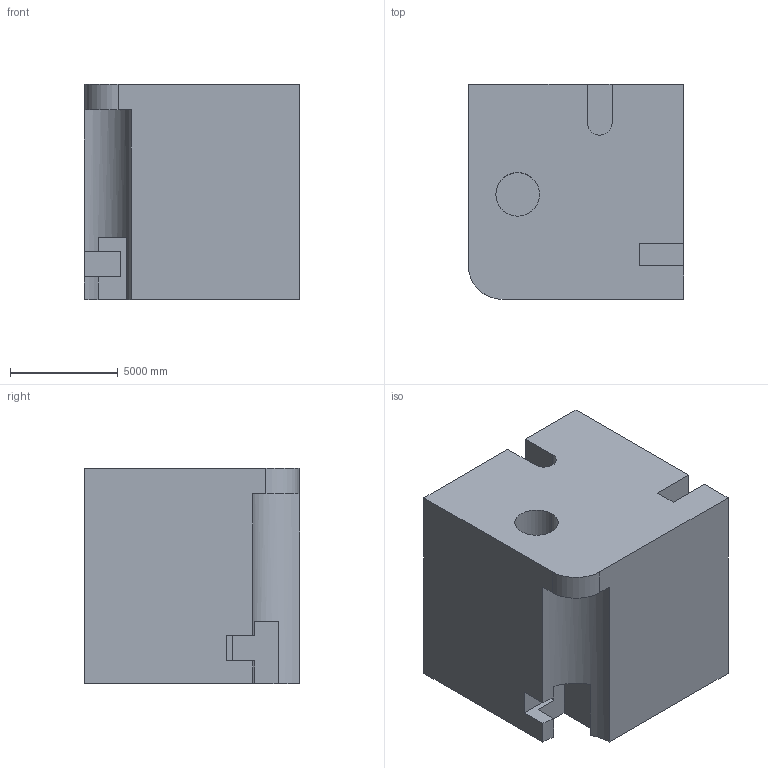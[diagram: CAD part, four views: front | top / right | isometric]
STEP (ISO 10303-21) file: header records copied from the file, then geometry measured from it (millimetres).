
FILE_DESCRIPTION (( 'STEP AP203' ), '1' );
FILE_NAME ('958.STEP', '2022-07-29T14:41:19', ( 'user' ), ( '' ), 'SwSTEP 2.0', 'SolidWorks 2021', '' );
FILE_SCHEMA (( 'CONFIG_CONTROL_DESIGN' ));
Length unit declared in the file: centimetre
Products named in the file (1): 958
Bounding box: 10000 x 10000 x 10000 mm (x, y, z)
Volume: 883012322789.4 mm3; surface area: 724320498.2 mm2
Topology: 1 solids, 1 shells, 39 faces, 102 edges, 68 vertices
Faces by surface type: plane 28, cylinder 11
Entity records: 1277 total; most frequent: CARTESIAN_POINT 210, DIRECTION 206, ORIENTED_EDGE 204, EDGE_CURVE 102, VECTOR 78, LINE 78, VERTEX_POINT 68, AXIS2_PLACEMENT_3D 64
